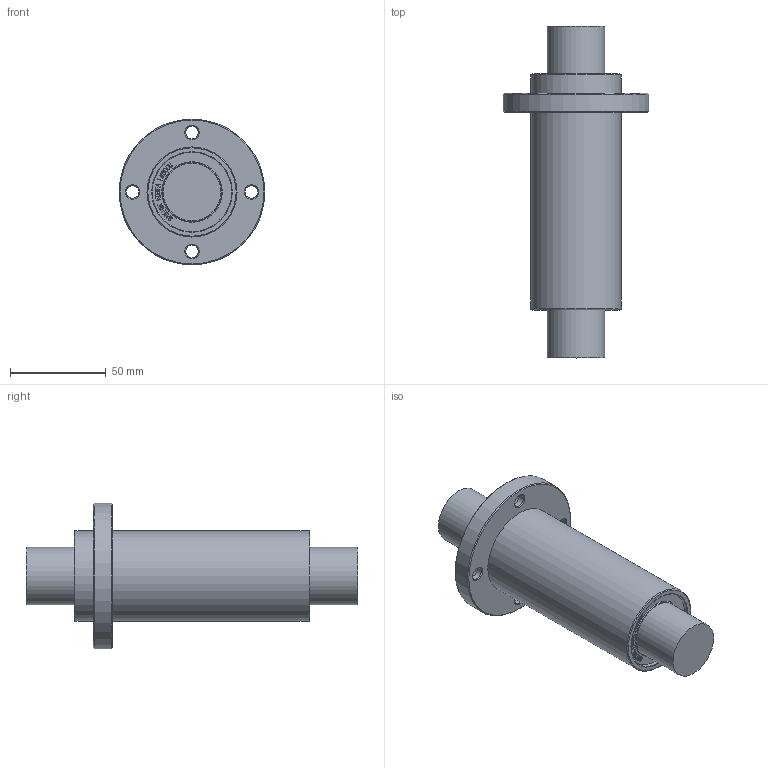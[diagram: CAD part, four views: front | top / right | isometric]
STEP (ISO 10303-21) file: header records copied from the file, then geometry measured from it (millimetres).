
FILE_DESCRIPTION(/* description */ (''),/* implementation_level */ '2;1');
FILE_NAME(/* name */ 'W:\(01) 2024년 홈페이지 CAD파일 최신화\LMEFP_L\IPT\LMEF30LUU.stp',/* time_stamp */ '2025-01-25T11:49:50+09:00',/* author */ ('서우현'),/* organization */ (''),/* preprocessor_version */ 'ST-DEVELOPER v17.2',/* originating_system */ 'Autodesk Inventor 2019',/* authorisation */ '');
FILE_SCHEMA (('AUTOMOTIVE_DESIGN { 1 0 10303 214 3 1 1 }'));
Length unit declared in the file: millimetre
Products named in the file (1): LM5
Bounding box: 76 x 173 x 76 mm (x, y, z)
Volume: 270807 mm3; surface area: 34485.1 mm2
Topology: 1 solids, 1 shells, 869 faces, 2451 edges, 1640 vertices
Faces by surface type: bspline 616, plane 222, cylinder 15, cone 14, torus 2
Full cylindrical faces by diameter (mm): 6.6 x4, 11 x4, 30 x2, 41.4 x2, 47 x2, 76 x1
Entity records: 29992 total; most frequent: CARTESIAN_POINT 11201, ORIENTED_EDGE 4902, EDGE_CURVE 2451, DIRECTION 1809, VERTEX_POINT 1640, B_SPLINE_CURVE_WITH_KNOTS 1232, LINE 1137, VECTOR 1137
